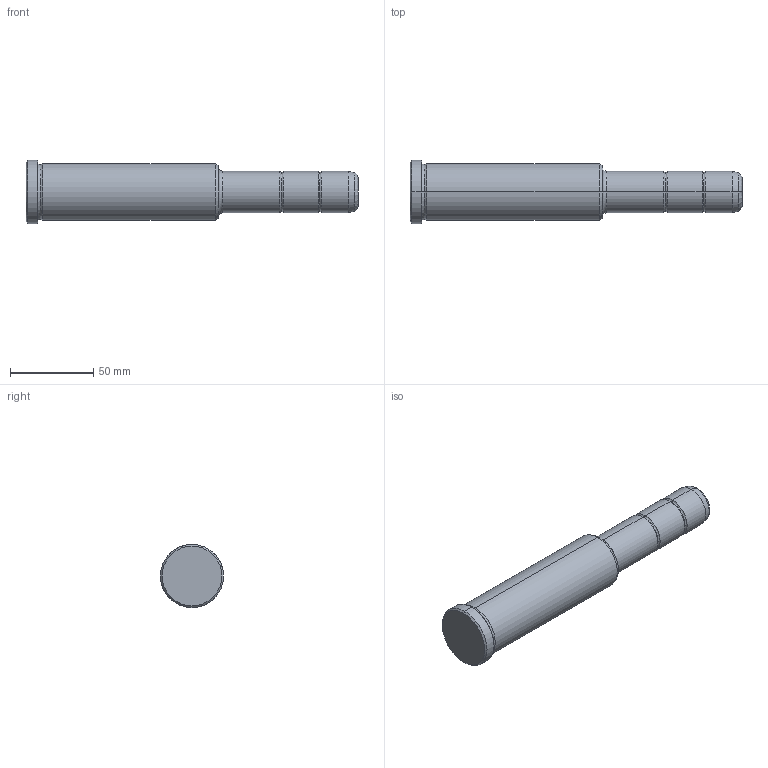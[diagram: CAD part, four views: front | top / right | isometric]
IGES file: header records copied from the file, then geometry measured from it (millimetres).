
Start section: START RECORD GO HERE.
Global section: file name: 351-25X116X200.igs; native system: DASSAULT SYSTEMES CATIA V5 R20 - www.3ds.com; preprocessor: CATIA Version 5 Release 20 ; author: Utente; organization: NB04-ASUS; date: 20210907.135409; units: millimetre
Bounding box: 200 x 38 x 38 mm (x, y, z)
Surface area: 21034 mm2 (no closed solid volume)
Topology: 0 solids, 0 shells, 36 faces, 204 edges, 204 vertices
Faces by surface type: revolution 32, plane 4
